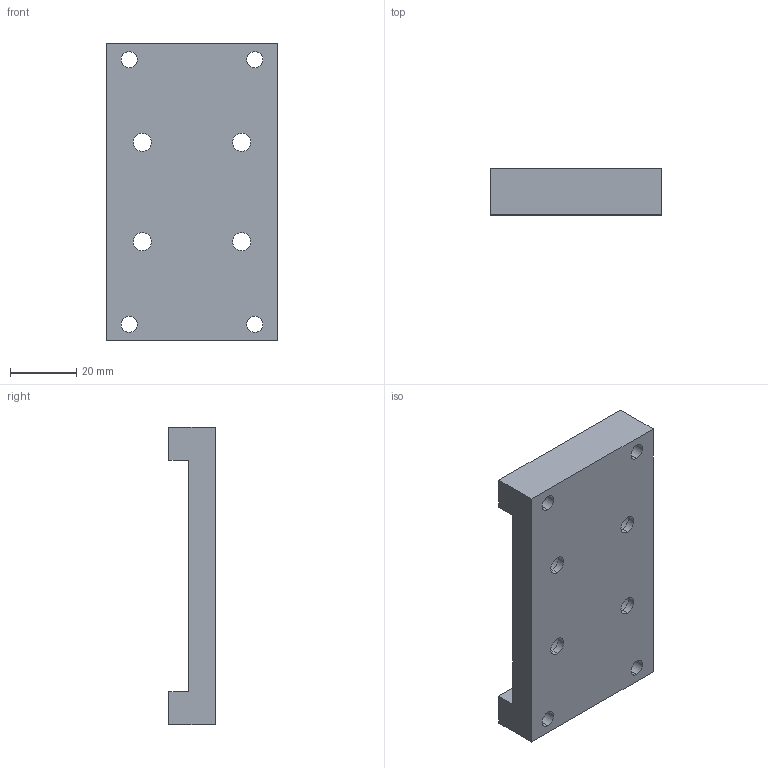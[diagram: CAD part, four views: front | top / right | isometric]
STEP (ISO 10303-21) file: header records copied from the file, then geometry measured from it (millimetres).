
FILE_DESCRIPTION (( 'STEP AP214' ), '1' );
FILE_NAME ('GZ21.04_V1滑台驱动板.STEP', '2021-02-26T01:20:21', ( '微软中国' ), ( 'Microsoft' ), 'SwSTEP 2.0', 'SolidWorks 2017', '' );
FILE_SCHEMA (( 'AUTOMOTIVE_DESIGN' ));
Length unit declared in the file: millimetre
Products named in the file (1): GZ21.04_V1滑台驱动板
Bounding box: 52 x 14 x 90 mm (x, y, z)
Volume: 40607.4 mm3; surface area: 14518.3 mm2
Topology: 1 solids, 1 shells, 38 faces, 96 edges, 64 vertices
Faces by surface type: cylinder 24, plane 14
Entity records: 1322 total; most frequent: DIRECTION 222, CARTESIAN_POINT 199, ORIENTED_EDGE 192, EDGE_CURVE 96, AXIS2_PLACEMENT_3D 87, VERTEX_POINT 64, EDGE_LOOP 58, LINE 48
